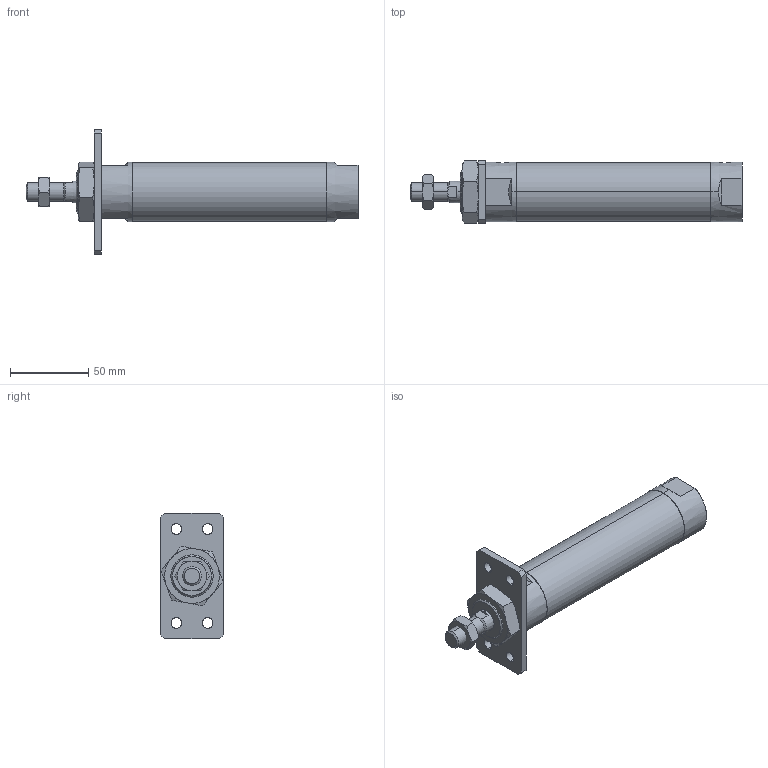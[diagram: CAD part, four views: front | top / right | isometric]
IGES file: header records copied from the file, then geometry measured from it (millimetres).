
Start section: SolidWorks IGES file using analytic representation for surfaces
Global section: file name: C:\Users\Toshiba\Desktop\JGND2-32-75-A.IGS; native system: SolidWorks 2014; preprocessor: SolidWorks 2014; author: Toshiba; date: 160804.104909; units: millimetre
Bounding box: 212 x 40 x 80 mm (x, y, z)
Surface area: 36334.5 mm2 (no closed solid volume)
Topology: 0 solids, 0 shells, 109 faces, 1980 edges, 1976 vertices
Faces by surface type: bspline 66, revolution 43
